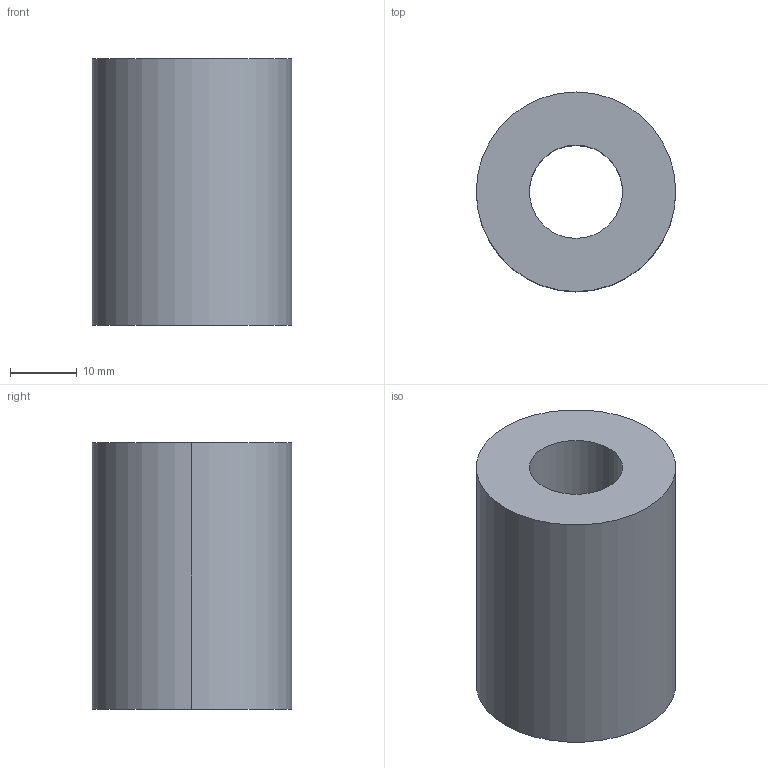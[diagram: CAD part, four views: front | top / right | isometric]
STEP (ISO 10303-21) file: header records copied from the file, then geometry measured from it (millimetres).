
FILE_DESCRIPTION(/* description */ (''),/* implementation_level */ '2;1');
FILE_NAME(/* name */ '3d_pa30-40_04910_r00.stp',/* time_stamp */ '2011-01-10T14:11:58+09:00',/* author */ ('MISUMI'),/* organization */ (''),/* preprocessor_version */ 'ST-DEVELOPER v11',/* originating_system */ 'UGS - NX 5.0',/* authorisation */ '');
FILE_SCHEMA (('CONFIG_CONTROL_DESIGN'));
Length unit declared in the file: millimetre
Products named in the file (1): 3d_pa30-40_04910_r00
Bounding box: 30 x 30 x 40 mm (x, y, z)
Volume: 22116.8 mm3; surface area: 6635 mm2
Topology: 1 solids, 1 shells, 6 faces, 12 edges, 8 vertices
Faces by surface type: cylinder 4, plane 2
Entity records: 254 total; most frequent: DIRECTION 34, CARTESIAN_POINT 27, ORIENTED_EDGE 24, AXIS2_PLACEMENT_3D 15, EDGE_CURVE 12, EDGE_LOOP 8, VERTEX_POINT 8, CIRCLE 8
